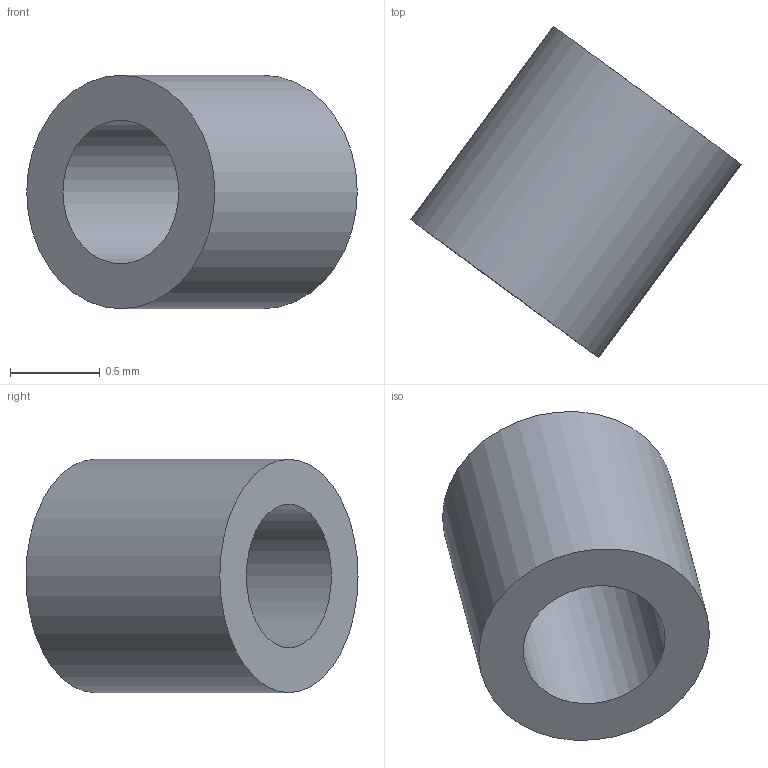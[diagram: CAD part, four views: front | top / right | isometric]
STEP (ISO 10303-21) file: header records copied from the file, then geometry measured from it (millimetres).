
FILE_DESCRIPTION(('FreeCAD Model'),'2;1');
FILE_NAME('Open CASCADE Shape Model','2026-10-23T21:15:57',('FreeCAD'),( 'FreeCAD'),'Open CASCADE STEP processor 7.8','FreeCAD','Unknown');
FILE_SCHEMA(('AUTOMOTIVE_DESIGN { 1 0 10303 214 1 1 1 1 }'));
Length unit declared in the file: millimetre
Products named in the file (1): Open CASCADE STEP translator 7.8 14
Bounding box: 1.84 x 1.85 x 1.3 mm (x, y, z)
Volume: 1.1 mm3; surface area: 10.5 mm2
Topology: 1 solids, 1 shells, 4 faces, 6 edges, 4 vertices
Faces by surface type: cylinder 2, plane 2
Full cylindrical faces by diameter (mm): 0.8 x1, 1.3 x1
Entity records: 108 total; most frequent: DIRECTION 20, CARTESIAN_POINT 15, ORIENTED_EDGE 12, AXIS2_PLACEMENT_3D 9, FACE_BOUND 6, EDGE_LOOP 6, EDGE_CURVE 6, ADVANCED_FACE 4
